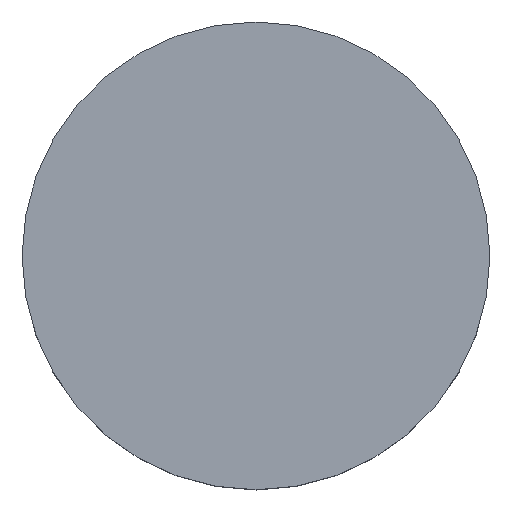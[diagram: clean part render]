
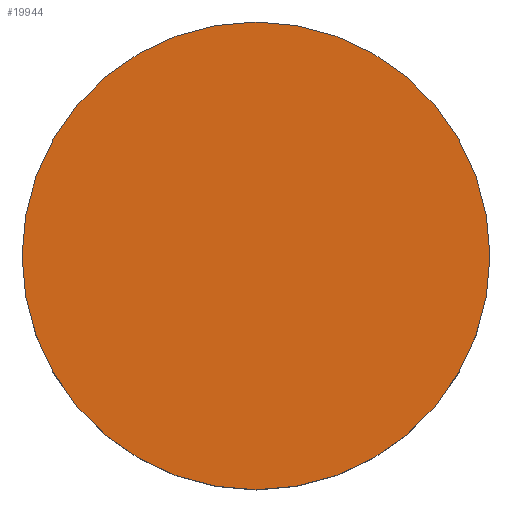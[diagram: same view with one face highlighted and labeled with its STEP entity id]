
A CAD part, top view. The second image highlights one B-rep face of the part: STEP entity #19944.
In plain terms, the highlighted planar face has unit normal (0, 0, 1).
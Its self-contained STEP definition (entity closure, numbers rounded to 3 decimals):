
#8054=CARTESIAN_POINT('',(0.,0.,80.));
#8055=DIRECTION('',(0.,0.,-1.));
#8056=DIRECTION('',(-1.,0.,0.));
#8057=AXIS2_PLACEMENT_3D('',#8054,#8055,#8056);
#8059=CARTESIAN_POINT('',(0.,0.,80.));
#8060=DIRECTION('',(0.,0.,1.));
#8061=DIRECTION('',(-1.,0.,0.));
#8062=AXIS2_PLACEMENT_3D('',#8059,#8060,#8061);
#8315=CARTESIAN_POINT('',(-37.,0.,80.));
#8317=VERTEX_POINT('',#8315);
#8325=CARTESIAN_POINT('',(37.,0.,80.));
#8327=VERTEX_POINT('',#8325);
#19935=CARTESIAN_POINT('',(0.,0.,80.));
#19936=DIRECTION('',(0.,0.,1.));
#19937=DIRECTION('',(-1.,0.,0.));
#19938=AXIS2_PLACEMENT_3D('',#19935,#19936,#19937);
#19939=PLANE('',#19938);
#19940=ORIENTED_EDGE('',*,*,#19930,.T.);
#19941=ORIENTED_EDGE('',*,*,#19914,.F.);
#19942=EDGE_LOOP('',(#19940,#19941));
#19943=FACE_OUTER_BOUND('',#19942,.F.);
#19944=ADVANCED_FACE('',(#19943),#19939,.T.);
#8058=CIRCLE('',#8057,37.);
#8063=CIRCLE('',#8062,37.);
#19914=EDGE_CURVE('',#8317,#8327,#8063,.T.);
#19930=EDGE_CURVE('',#8317,#8327,#8058,.T.);
